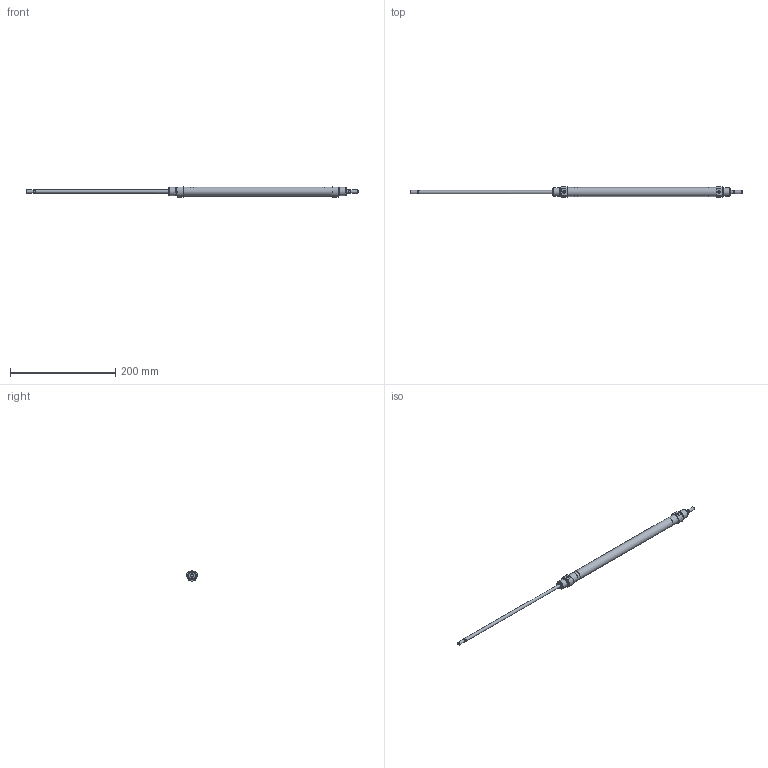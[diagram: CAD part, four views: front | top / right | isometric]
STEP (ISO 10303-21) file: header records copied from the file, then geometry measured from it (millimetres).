
FILE_DESCRIPTION( ( 'STEP AP203' ), '1' );
FILE_NAME( '//expscmdclustefs.cadenas.external/client_exchange/iodir/jobs/output/wkb68411960_no0/STEP/M101-016-0250--__0__2_03.stp', ' ', ( ' ' ), ( ' ' ), 'PSStep 15.0.47', 'PARTsolutions', ' ' );
FILE_SCHEMA( ( 'CONFIG_CONTROL_DESIGN' ) );
Length unit declared in the file: millimetre
Products named in the file (3): M101-016-0250-- [0]; HI_M101-016-0250---[0]-z; HI_M101-016-0250---[0]-k
Assembly tree (2 placements, depth 2):
  M101-016-0250-- [0]
    HI_M101-016-0250---[0]-z
    HI_M101-016-0250---[0]-k
Bounding box: 632 x 20.94 x 19.09 mm (x, y, z)
Volume: 45392.7 mm3; surface area: 46774.8 mm2
Topology: 2 solids, 2 shells, 67 faces, 135 edges, 82 vertices
Faces by surface type: plane 28, cylinder 23, cone 14, torus 2
Full cylindrical faces by diameter (mm): 4.134 x2, 4.773 x2, 6 x6, 14.16 x4, 16 x6, 17.3 x1
Entity records: 1730 total; most frequent: CARTESIAN_POINT 334, DIRECTION 292, ORIENTED_EDGE 196, AXIS2_PLACEMENT_3D 132, EDGE_LOOP 116, EDGE_CURVE 98, FACE_OUTER_BOUND 90, VERTEX_POINT 78
